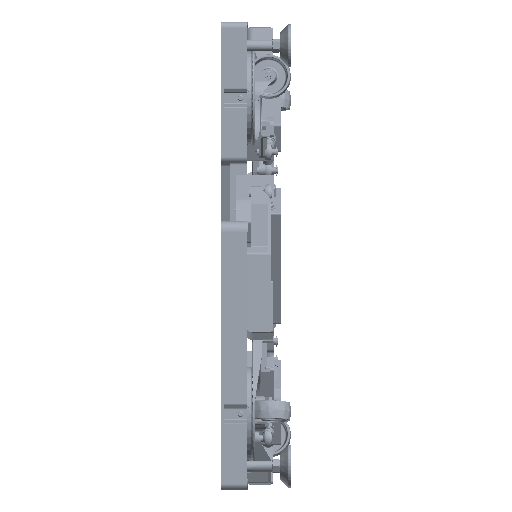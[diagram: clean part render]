
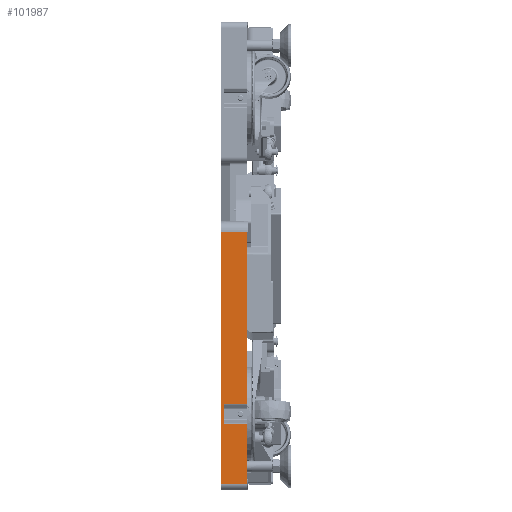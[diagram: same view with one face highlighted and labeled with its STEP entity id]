
A CAD part, left-side view. The second image highlights one B-rep face of the part: STEP entity #101987.
In plain terms, the highlighted planar face has unit normal (-1, 0, 0).
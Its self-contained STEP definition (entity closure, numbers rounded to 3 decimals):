
#5355=PLANE('',#110689);
#9399=FACE_OUTER_BOUND('',#15629,.T.);
#15629=EDGE_LOOP('',(#79725,#79726,#79727,#79728,#79729,#79730,#79731,#79732));
#22813=LINE('',#166966,#30533);
#22814=LINE('',#166968,#30534);
#22815=LINE('',#166970,#30535);
#22816=LINE('',#166972,#30536);
#22817=LINE('',#166974,#30537);
#22818=LINE('',#166976,#30538);
#22819=LINE('',#166978,#30539);
#22820=LINE('',#166979,#30540);
#30533=VECTOR('',#131674,1000.);
#30534=VECTOR('',#131675,1000.);
#30535=VECTOR('',#131676,1000.);
#30536=VECTOR('',#131677,1000.);
#30537=VECTOR('',#131678,1000.);
#30538=VECTOR('',#131679,1000.);
#30539=VECTOR('',#131680,1000.);
#30540=VECTOR('',#131681,1000.);
#45668=VERTEX_POINT('',#166964);
#45669=VERTEX_POINT('',#166965);
#45670=VERTEX_POINT('',#166967);
#45671=VERTEX_POINT('',#166969);
#45672=VERTEX_POINT('',#166971);
#45673=VERTEX_POINT('',#166973);
#45674=VERTEX_POINT('',#166975);
#45675=VERTEX_POINT('',#166977);
#57936=EDGE_CURVE('',#45668,#45669,#22813,.T.);
#57937=EDGE_CURVE('',#45669,#45670,#22814,.T.);
#57938=EDGE_CURVE('',#45670,#45671,#22815,.T.);
#57939=EDGE_CURVE('',#45671,#45672,#22816,.T.);
#57940=EDGE_CURVE('',#45673,#45672,#22817,.T.);
#57941=EDGE_CURVE('',#45673,#45674,#22818,.T.);
#57942=EDGE_CURVE('',#45675,#45674,#22819,.T.);
#57943=EDGE_CURVE('',#45675,#45668,#22820,.T.);
#79725=ORIENTED_EDGE('',*,*,#57936,.T.);
#79726=ORIENTED_EDGE('',*,*,#57937,.T.);
#79727=ORIENTED_EDGE('',*,*,#57938,.T.);
#79728=ORIENTED_EDGE('',*,*,#57939,.T.);
#79729=ORIENTED_EDGE('',*,*,#57940,.F.);
#79730=ORIENTED_EDGE('',*,*,#57941,.T.);
#79731=ORIENTED_EDGE('',*,*,#57942,.F.);
#79732=ORIENTED_EDGE('',*,*,#57943,.T.);
#101987=ADVANCED_FACE('',(#9399),#5355,.T.);
#110689=AXIS2_PLACEMENT_3D('',#166963,#131672,#131673);
#131672=DIRECTION('center_axis',(-1.,0.,0.));
#131673=DIRECTION('ref_axis',(0.,0.,1.));
#131674=DIRECTION('',(0.,-1.,0.));
#131675=DIRECTION('',(0.,0.,1.));
#131676=DIRECTION('',(0.,1.,0.));
#131677=DIRECTION('',(0.,0.,1.));
#131678=DIRECTION('',(0.,1.,0.));
#131679=DIRECTION('',(0.,0.,1.));
#131680=DIRECTION('',(0.,-1.,0.));
#131681=DIRECTION('',(0.,0.,-1.));
#166963=CARTESIAN_POINT('Origin',(-695.,-47.5,-542.665));
#166964=CARTESIAN_POINT('',(-695.,0.,-685.));
#166965=CARTESIAN_POINT('',(-695.,-46.,-685.));
#166966=CARTESIAN_POINT('',(-695.,50.,-685.));
#166967=CARTESIAN_POINT('',(-695.,-46.,-577.335));
#166968=CARTESIAN_POINT('',(-695.,-46.,-542.665));
#166969=CARTESIAN_POINT('',(-695.,-6.,-577.335));
#166970=CARTESIAN_POINT('',(-695.,-47.5,-577.335));
#166971=CARTESIAN_POINT('',(-695.,-6.,-542.665));
#166972=CARTESIAN_POINT('',(-695.,-6.,-695.));
#166973=CARTESIAN_POINT('',(-695.,-46.,-542.665));
#166974=CARTESIAN_POINT('',(-695.,-47.5,-542.665));
#166975=CARTESIAN_POINT('',(-695.,-46.,-238.));
#166976=CARTESIAN_POINT('',(-695.,-46.,-542.665));
#166977=CARTESIAN_POINT('',(-695.,0.,-238.));
#166978=CARTESIAN_POINT('',(-695.,50.,-238.));
#166979=CARTESIAN_POINT('',(-695.,0.,-542.665));
